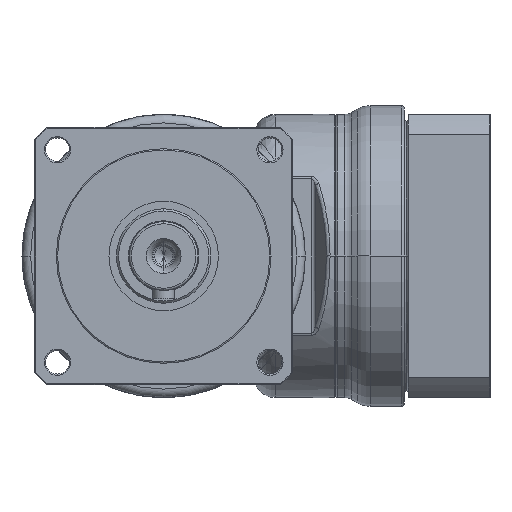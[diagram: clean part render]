
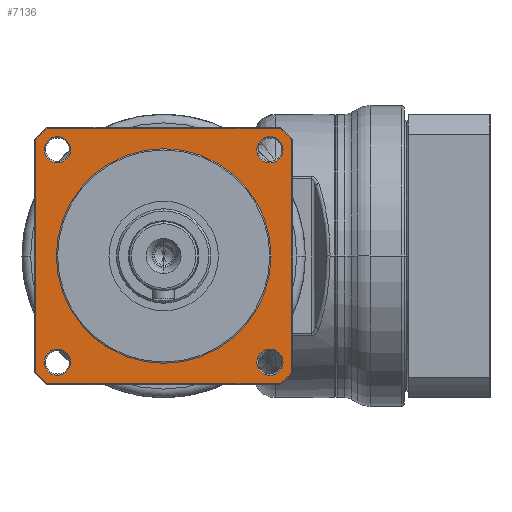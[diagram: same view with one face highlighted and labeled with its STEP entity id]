
A CAD part, left-side view. The second image highlights one B-rep face of the part: STEP entity #7136.
In plain terms, the highlighted planar face has unit normal (-1, 0, 0).
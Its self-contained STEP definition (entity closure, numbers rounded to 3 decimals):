
#6017=CARTESIAN_POINT('',(5.5,24.749,-24.749));
#6018=DIRECTION('',(1.,0.,0.));
#6019=DIRECTION('',(0.,-1.,0.));
#6020=AXIS2_PLACEMENT_3D('',#6017,#6018,#6019);
#6022=CARTESIAN_POINT('',(5.5,24.749,-24.749));
#6023=DIRECTION('',(1.,0.,0.));
#6024=DIRECTION('',(0.,1.,0.));
#6025=AXIS2_PLACEMENT_3D('',#6022,#6023,#6024);
#6027=CARTESIAN_POINT('',(5.5,24.749,24.749));
#6028=DIRECTION('',(1.,0.,0.));
#6029=DIRECTION('',(0.,0.,-1.));
#6030=AXIS2_PLACEMENT_3D('',#6027,#6028,#6029);
#6032=CARTESIAN_POINT('',(5.5,24.749,24.749));
#6033=DIRECTION('',(1.,0.,0.));
#6034=DIRECTION('',(0.,0.,1.));
#6035=AXIS2_PLACEMENT_3D('',#6032,#6033,#6034);
#6037=CARTESIAN_POINT('',(5.5,-24.749,24.749));
#6038=DIRECTION('',(1.,0.,0.));
#6039=DIRECTION('',(0.,1.,0.));
#6040=AXIS2_PLACEMENT_3D('',#6037,#6038,#6039);
#6042=CARTESIAN_POINT('',(5.5,-24.749,24.749));
#6043=DIRECTION('',(1.,0.,0.));
#6044=DIRECTION('',(0.,-1.,0.));
#6045=AXIS2_PLACEMENT_3D('',#6042,#6043,#6044);
#6047=CARTESIAN_POINT('',(5.5,-24.749,
-24.749));
#6048=DIRECTION('',(1.,0.,0.));
#6049=DIRECTION('',(0.,0.,1.));
#6050=AXIS2_PLACEMENT_3D('',#6047,#6048,#6049);
#6052=CARTESIAN_POINT('',(5.5,-24.749,
-24.749));
#6053=DIRECTION('',(1.,0.,0.));
#6054=DIRECTION('',(0.,0.,-1.));
#6055=AXIS2_PLACEMENT_3D('',#6052,#6053,#6054);
#6057=CARTESIAN_POINT('',(5.5,0.,0.));
#6058=DIRECTION('',(-1.,0.,0.));
#6059=DIRECTION('',(0.,1.,0.));
#6060=AXIS2_PLACEMENT_3D('',#6057,#6058,#6059);
#6062=CARTESIAN_POINT('',(5.5,0.,0.));
#6063=DIRECTION('',(-1.,0.,0.));
#6064=DIRECTION('',(0.,-1.,0.));
#6065=AXIS2_PLACEMENT_3D('',#6062,#6063,#6064);
#6067=CARTESIAN_POINT('',(5.5,0.,0.));
#6068=DIRECTION('',(-1.,0.,0.));
#6069=DIRECTION('',(0.,0.739,-0.673));
#6070=AXIS2_PLACEMENT_3D('',#6067,#6068,#6069);
#6072=DIRECTION('',(0.,0.,-1.));
#6073=VECTOR('',#6072,54.26);
#6074=CARTESIAN_POINT('',(5.5,29.8,27.13));
#6075=LINE('',#6074,#6073);
#6076=CARTESIAN_POINT('',(5.5,0.,0.));
#6077=DIRECTION('',(-1.,0.,0.));
#6078=DIRECTION('',(0.,0.673,0.739));
#6079=AXIS2_PLACEMENT_3D('',#6076,#6077,#6078);
#6081=DIRECTION('',(0.,1.,0.));
#6082=VECTOR('',#6081,54.26);
#6083=CARTESIAN_POINT('',(5.5,-27.13,29.8));
#6084=LINE('',#6083,#6082);
#6085=CARTESIAN_POINT('',(5.5,0.,0.));
#6086=DIRECTION('',(-1.,0.,0.));
#6087=DIRECTION('',(0.,-0.739,0.673));
#6088=AXIS2_PLACEMENT_3D('',#6085,#6086,#6087);
#6090=DIRECTION('',(0.,0.,1.));
#6091=VECTOR('',#6090,54.26);
#6092=CARTESIAN_POINT('',(5.5,-29.8,
-27.13));
#6093=LINE('',#6092,#6091);
#6094=CARTESIAN_POINT('',(5.5,0.,0.));
#6095=DIRECTION('',(-1.,0.,0.));
#6096=DIRECTION('',(0.,-0.673,-0.739));
#6097=AXIS2_PLACEMENT_3D('',#6094,#6095,#6096);
#6099=DIRECTION('',(0.,-1.,0.));
#6100=VECTOR('',#6099,54.26);
#6101=CARTESIAN_POINT('',(5.5,27.13,-29.8));
#6102=LINE('',#6101,#6100);
#6770=CARTESIAN_POINT('',(5.5,21.699,-24.749));
#6771=CARTESIAN_POINT('',(5.5,27.799,-24.749));
#6772=VERTEX_POINT('',#6770);
#6773=VERTEX_POINT('',#6771);
#6786=CARTESIAN_POINT('',(5.5,24.749,21.699));
#6787=CARTESIAN_POINT('',(5.5,24.749,27.799));
#6788=VERTEX_POINT('',#6786);
#6789=VERTEX_POINT('',#6787);
#6802=CARTESIAN_POINT('',(5.5,-21.699,24.749));
#6803=CARTESIAN_POINT('',(5.5,-27.799,24.749));
#6804=VERTEX_POINT('',#6802);
#6805=VERTEX_POINT('',#6803);
#6818=CARTESIAN_POINT('',(5.5,-24.749,
-21.699));
#6819=CARTESIAN_POINT('',(5.5,-24.749,
-27.799));
#6820=VERTEX_POINT('',#6818);
#6821=VERTEX_POINT('',#6819);
#6878=CARTESIAN_POINT('',(5.5,29.8,-27.13));
#6879=CARTESIAN_POINT('',(5.5,27.13,-29.8));
#6880=VERTEX_POINT('',#6878);
#6881=VERTEX_POINT('',#6879);
#6882=CARTESIAN_POINT('',(5.5,-27.13,
-29.8));
#6883=VERTEX_POINT('',#6882);
#6888=CARTESIAN_POINT('',(5.5,-29.8,-27.13));
#6889=VERTEX_POINT('',#6888);
#6890=CARTESIAN_POINT('',(5.5,-29.8,27.13));
#6891=VERTEX_POINT('',#6890);
#6896=CARTESIAN_POINT('',(5.5,-27.13,29.8));
#6897=VERTEX_POINT('',#6896);
#6898=CARTESIAN_POINT('',(5.5,27.13,29.8));
#6899=VERTEX_POINT('',#6898);
#6904=CARTESIAN_POINT('',(5.5,29.8,27.13));
#6905=VERTEX_POINT('',#6904);
#6914=CARTESIAN_POINT('',(5.5,25.,0.));
#6915=CARTESIAN_POINT('',(5.5,-25.,0.));
#6916=VERTEX_POINT('',#6914);
#6917=VERTEX_POINT('',#6915);
#7084=CARTESIAN_POINT('',(5.5,0.,0.));
#7085=DIRECTION('',(1.,0.,0.));
#7086=DIRECTION('',(0.,-1.,0.));
#7087=AXIS2_PLACEMENT_3D('',#7084,#7085,#7086);
#7088=PLANE('',#7087);
#7090=ORIENTED_EDGE('',*,*,#7089,.F.);
#7092=ORIENTED_EDGE('',*,*,#7091,.F.);
#7094=ORIENTED_EDGE('',*,*,#7093,.F.);
#7096=ORIENTED_EDGE('',*,*,#7095,.F.);
#7098=ORIENTED_EDGE('',*,*,#7097,.F.);
#7100=ORIENTED_EDGE('',*,*,#7099,.F.);
#7102=ORIENTED_EDGE('',*,*,#7101,.F.);
#7104=ORIENTED_EDGE('',*,*,#7103,.F.);
#7105=EDGE_LOOP('',(#7090,#7092,#7094,#7096,#7098,#7100,#7102,#7104));
#7106=FACE_OUTER_BOUND('',#7105,.F.);
#7108=ORIENTED_EDGE('',*,*,#7107,.F.);
#7110=ORIENTED_EDGE('',*,*,#7109,.F.);
#7111=EDGE_LOOP('',(#7108,#7110));
#7112=FACE_BOUND('',#7111,.F.);
#7114=ORIENTED_EDGE('',*,*,#7113,.F.);
#7116=ORIENTED_EDGE('',*,*,#7115,.F.);
#7117=EDGE_LOOP('',(#7114,#7116));
#7118=FACE_BOUND('',#7117,.F.);
#7120=ORIENTED_EDGE('',*,*,#7119,.F.);
#7122=ORIENTED_EDGE('',*,*,#7121,.F.);
#7123=EDGE_LOOP('',(#7120,#7122));
#7124=FACE_BOUND('',#7123,.F.);
#7126=ORIENTED_EDGE('',*,*,#7125,.T.);
#7127=ORIENTED_EDGE('',*,*,#7074,.T.);
#7128=EDGE_LOOP('',(#7126,#7127));
#7129=FACE_BOUND('',#7128,.F.);
#7131=ORIENTED_EDGE('',*,*,#7130,.F.);
#7133=ORIENTED_EDGE('',*,*,#7132,.F.);
#7134=EDGE_LOOP('',(#7131,#7133));
#7135=FACE_BOUND('',#7134,.F.);
#7136=ADVANCED_FACE('',(#7106,#7112,#7118,#7124,#7129,#7135),#7088,.F.);
#6021=CIRCLE('',#6020,3.05);
#6026=CIRCLE('',#6025,3.05);
#6031=CIRCLE('',#6030,3.05);
#6036=CIRCLE('',#6035,3.05);
#6041=CIRCLE('',#6040,3.05);
#6046=CIRCLE('',#6045,3.05);
#6051=CIRCLE('',#6050,3.05);
#6056=CIRCLE('',#6055,3.05);
#6061=CIRCLE('',#6060,25.);
#6066=CIRCLE('',#6065,25.);
#6071=CIRCLE('',#6070,40.3);
#6080=CIRCLE('',#6079,40.3);
#6089=CIRCLE('',#6088,40.3);
#6098=CIRCLE('',#6097,40.3);
#7074=EDGE_CURVE('',#6917,#6916,#6066,.T.);
#7089=EDGE_CURVE('',#6880,#6881,#6071,.T.);
#7091=EDGE_CURVE('',#6905,#6880,#6075,.T.);
#7093=EDGE_CURVE('',#6899,#6905,#6080,.T.);
#7095=EDGE_CURVE('',#6897,#6899,#6084,.T.);
#7097=EDGE_CURVE('',#6891,#6897,#6089,.T.);
#7099=EDGE_CURVE('',#6889,#6891,#6093,.T.);
#7101=EDGE_CURVE('',#6883,#6889,#6098,.T.);
#7103=EDGE_CURVE('',#6881,#6883,#6102,.T.);
#7107=EDGE_CURVE('',#6788,#6789,#6031,.T.);
#7109=EDGE_CURVE('',#6789,#6788,#6036,.T.);
#7113=EDGE_CURVE('',#6804,#6805,#6041,.T.);
#7115=EDGE_CURVE('',#6805,#6804,#6046,.T.);
#7119=EDGE_CURVE('',#6820,#6821,#6051,.T.);
#7121=EDGE_CURVE('',#6821,#6820,#6056,.T.);
#7125=EDGE_CURVE('',#6916,#6917,#6061,.T.);
#7130=EDGE_CURVE('',#6772,#6773,#6021,.T.);
#7132=EDGE_CURVE('',#6773,#6772,#6026,.T.);
